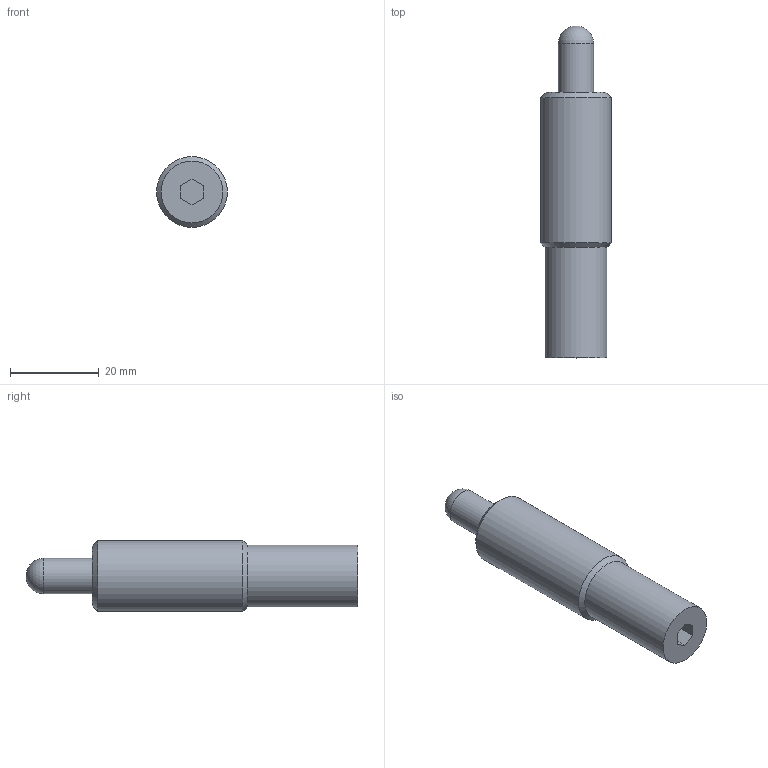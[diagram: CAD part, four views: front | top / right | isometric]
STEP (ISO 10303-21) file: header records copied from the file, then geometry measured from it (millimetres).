
FILE_DESCRIPTION( ( 'STEP AP203' ), '1' );
FILE_NAME( 'p:/temp/worker_3/temp/app_46_0201907041159315514358810e898ce_000000_00_00_000000/format_0/M314-04-008.stp', '2019-07-04T09:59:31', ( '' ), ( '' ), ' ', 'PARTsolutions', ' ' );
FILE_SCHEMA( ( 'CONFIG_CONTROL_DESIGN' ) );
Length unit declared in the file: millimetre
Products named in the file (1): _M314-04-008
Bounding box: 16 x 75 x 16 mm (x, y, z)
Volume: 11404.3 mm3; surface area: 3605.5 mm2
Topology: 1 solids, 1 shells, 15 faces, 33 edges, 21 vertices
Faces by surface type: plane 9, cylinder 3, cone 2, sphere 1
Full cylindrical faces by diameter (mm): 8 x1, 14 x1, 16 x1
Entity records: 410 total; most frequent: DIRECTION 64, CARTESIAN_POINT 61, ORIENTED_EDGE 50, EDGE_CURVE 25, AXIS2_PLACEMENT_3D 23, EDGE_LOOP 22, VERTEX_POINT 20, FACE_OUTER_BOUND 18
